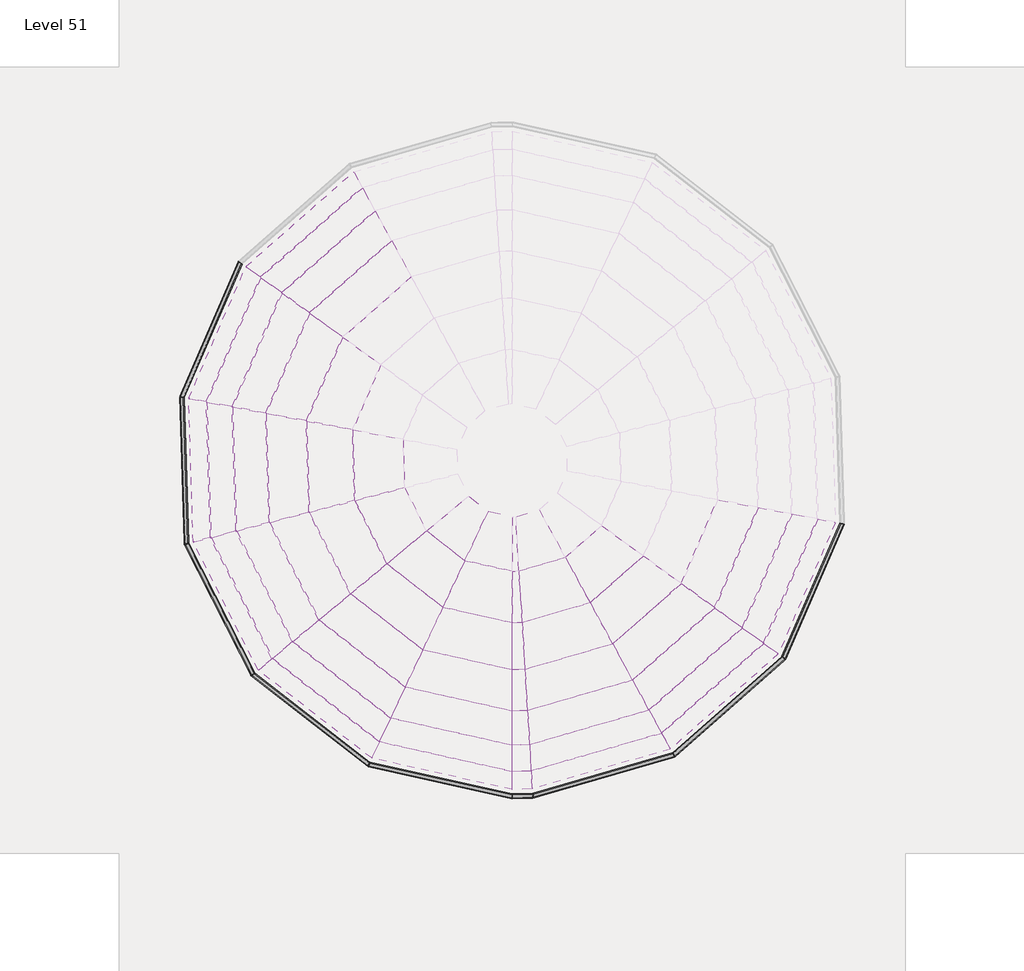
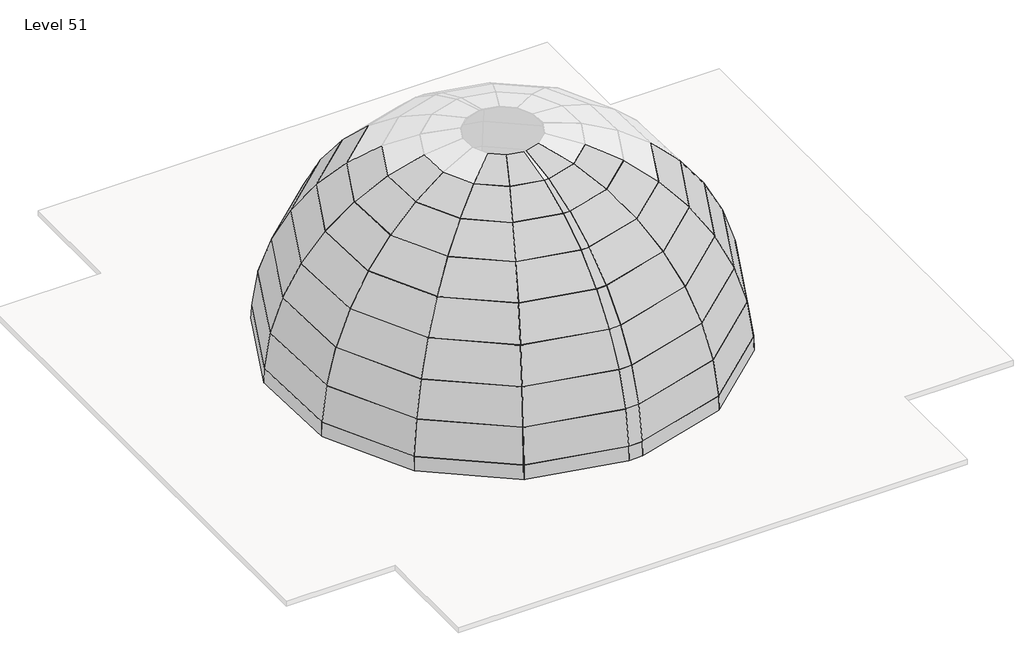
# One storey, part 1 of 2: 76 plates.
"""IFC4 building model written with IfcOpenShell, lengths in millimetres."""

from ifc_helpers import new_model, si_unit, origin, place, context, project, spatial, transform, mapped, element, save
from components import system_panel_glazed_7f2603d2, system_panel_glazed_10bcf4cf, system_panel_glazed_07e92868, system_panel_glazed_673ffbb1, system_panel_glazed_c6f68c0f, system_panel_glazed_d746c46d, system_panel_glazed_5827fd40, system_panel_glazed_fe6de704, system_panel_glazed_5ba3e6ec, system_panel_glazed_9fd5a8b6, system_panel_glazed_03378611, system_panel_glazed_ead59c80, system_panel_glazed_69a4d19d, system_panel_glazed_c8d27067, system_panel_glazed_4af60eb3, system_panel_glazed_c29e8d54, system_panel_glazed_620c5912

model = new_model("IFC4")

# Units and contexts
model_context = context("Model", 3, world=origin())
ifc_project = project(units=[si_unit("LENGTHUNIT", "METRE", prefix="MILLI")], contexts=[model_context])

# Site, building, storey
site = spatial("IfcSite", under=ifc_project)
building = spatial("IfcBuilding", under=site)
storey = spatial("IfcBuildingStorey", under=building, Name="Level 51", Elevation=152400.0)

# Plates
placement = place(None, origin())
system_panel_glazed_shape = system_panel_glazed_7f2603d2(model_context)
element("IfcPlate", 1, ObjectType="System Panel : Glazed", at=placement, inside=storey, context=model_context, shape_type="MappedRepresentation", body=[
    mapped(system_panel_glazed_shape, transform((3193.0877593, -7639.7651167, 161416.1055894), x_axis=(-0.9759000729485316, 0.2182178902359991, 0.0), y_axis=(0.05542611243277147, 0.2478731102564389, -0.9672057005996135), z_axis=(-0.2110615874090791, -0.9438961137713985, -0.2539943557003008))),
])
element("IfcPlate", 2, ObjectType="System Panel : Glazed", at=placement, inside=storey, context=model_context, shape_type="MappedRepresentation", body=[
    mapped(system_panel_glazed_shape, transform((2605.8080826, -7363.3025317, 161416.1055894), x_axis=(-0.790014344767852, 0.6130883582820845, 0.0), y_axis=(0.15572098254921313, 0.20065918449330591, -0.9672057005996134), z_axis=(-0.5929825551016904, -0.7641063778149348, -0.2539943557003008))),
])
element("IfcPlate", 3, ObjectType="System Panel : Glazed", at=placement, inside=storey, context=model_context, shape_type="MappedRepresentation", body=[
    mapped(system_panel_glazed_shape, transform((3931.1522218, -7616.9660806, 161416.1055894), x_axis=(-0.960570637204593, -0.2780360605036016, 0.0), y_axis=(-0.07061959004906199, 0.24397952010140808, -0.9672057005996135), z_axis=(0.2689180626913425, -0.9290693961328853, -0.2539943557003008))),
])
system_panel_glazed_2_shape = system_panel_glazed_10bcf4cf(model_context)
element("IfcPlate", 4, ObjectType="System Panel : Glazed", at=placement, inside=storey, context=model_context, shape_type="MappedRepresentation", body=[
    mapped(system_panel_glazed_2_shape, transform((2878.6985493, -9045.7564067, 161037.7653816), x_axis=(-0.9759000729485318, 0.21821789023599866, 0.0), y_axis=(0.09034502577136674, 0.40403523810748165, -0.910271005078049), z_axis=(-0.19863741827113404, -0.8883335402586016, -0.41401291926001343))),
])
element("IfcPlate", 5, ObjectType="System Panel : Glazed", at=placement, inside=storey, context=model_context, shape_type="MappedRepresentation", body=[
    mapped(system_panel_glazed_2_shape, transform((1722.5241116, -8501.4859569, 161037.7653816), x_axis=(-0.7900143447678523, 0.6130883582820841, 0.0), y_axis=(0.25382650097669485, 0.32707614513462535, -0.910271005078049), z_axis=(-0.5580765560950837, -0.7191271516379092, -0.4140129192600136))),
])
element("IfcPlate", 6, ObjectType="System Panel : Glazed", at=placement, inside=storey, context=model_context, shape_type="MappedRepresentation", body=[
    mapped(system_panel_glazed_2_shape, transform((908.2759487, -7516.6156192, 161037.7653816), x_axis=(-0.45364969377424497, 0.8911800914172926, 0.0), y_axis=(0.368960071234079, 0.18781683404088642, -0.9102710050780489), z_axis=(-0.8112153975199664, -0.41294416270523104, -0.4140129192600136))),
])
element("IfcPlate", 7, ObjectType="System Panel : Glazed", at=placement, inside=storey, context=model_context, shape_type="MappedRepresentation", body=[
    mapped(system_panel_glazed_2_shape, transform((591.0489488, -6278.7397436, 161037.7653816), x_axis=(-0.030875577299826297, 0.9995232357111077, 0.0), y_axis=(0.41381553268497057, 0.01278288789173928, -0.910271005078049), z_axis=(-0.9098370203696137, -0.028105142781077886, -0.4140129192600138))),
])
element("IfcPlate", 8, ObjectType="System Panel : Glazed", at=placement, inside=storey, context=model_context, shape_type="MappedRepresentation", body=[
    mapped(system_panel_glazed_2_shape, transform((5452.0989763, -8386.278253, 161037.7653816), x_axis=(-0.7506672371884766, -0.6606804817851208, 0.0), y_axis=(-0.27353025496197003, 0.31078593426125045, -0.9102710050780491), z_axis=(0.6013982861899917, -0.6833106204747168, -0.4140129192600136))),
])
element("IfcPlate", 9, ObjectType="System Panel : Glazed", at=placement, inside=storey, context=model_context, shape_type="MappedRepresentation", body=[
    mapped(system_panel_glazed_2_shape, transform((4331.7222087, -9000.8720632, 161037.7653816), x_axis=(-0.9605706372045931, -0.27803606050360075, 0.0), y_axis=(-0.1151105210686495, 0.39768865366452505, -0.910271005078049), z_axis=(0.2530881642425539, -0.874379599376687, -0.4140129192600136))),
])
system_panel_glazed_3_shape = system_panel_glazed_07e92868(model_context)
element("IfcPlate", 10, ObjectType="System Panel : Glazed", at=placement, inside=storey, context=model_context, shape_type="MappedRepresentation", body=[
    mapped(system_panel_glazed_3_shape, transform((3610.2286012, -9185.7672187, 161037.7653816), x_axis=(-0.9995232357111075, -0.030875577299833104, 0.0), y_axis=(-0.012531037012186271, 0.4056624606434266, -0.9139370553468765), z_axis=(0.02821833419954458, -0.9135013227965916, -0.40585595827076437))),
])
system_panel_glazed_4_shape = system_panel_glazed_673ffbb1(model_context)
element("IfcPlate", 11, ObjectType="System Panel : Glazed", at=placement, inside=storey, context=model_context, shape_type="MappedRepresentation", body=[
    mapped(system_panel_glazed_4_shape, transform((2582.0576311, -10372.3749228, 160419.4872466), x_axis=(-0.975900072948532, 0.21821789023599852, 0.0), y_axis=(0.1224717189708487, 0.5477101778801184, -0.8276558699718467), z_axis=(-0.180609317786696, -0.807709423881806, -0.5612359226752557))),
])
element("IfcPlate", 12, ObjectType="System Panel : Glazed", at=placement, inside=storey, context=model_context, shape_type="MappedRepresentation", body=[
    mapped(system_panel_glazed_4_shape, transform((889.104389, -9575.4152319, 160419.4872466), x_axis=(-0.7900143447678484, 0.6130883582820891, 0.0), y_axis=(0.34408721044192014, 0.44338442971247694, -0.8276558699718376), z_axis=(-0.5074261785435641, -0.6538600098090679, -0.5612359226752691))),
])
element("IfcPlate", 13, ObjectType="System Panel : Glazed", at=placement, inside=storey, context=model_context, shape_type="MappedRepresentation", body=[
    mapped(system_panel_glazed_4_shape, transform((-303.1759645, -8133.2976958, 160419.4872466), x_axis=(-0.45364969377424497, 0.8911800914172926, 0.0), y_axis=(0.5001622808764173, 0.25460450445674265, -0.8276558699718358), z_axis=(-0.7375904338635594, -0.37546583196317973, -0.5612359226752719))),
])
element("IfcPlate", 14, ObjectType="System Panel : Glazed", at=placement, inside=storey, context=model_context, shape_type="MappedRepresentation", body=[
    mapped(system_panel_glazed_4_shape, transform((-767.6824096, -6320.7113692, 160419.4872466), x_axis=(-0.03087557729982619, 0.9995232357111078, 0.0), y_axis=(0.5609683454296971, 0.017328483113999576, -0.8276558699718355), z_axis=(-0.8272612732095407, -0.025554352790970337, -0.5612359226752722))),
])
element("IfcPlate", 15, ObjectType="System Panel : Glazed", at=placement, inside=storey, context=model_context, shape_type="MappedRepresentation", body=[
    mapped(system_panel_glazed_4_shape, transform((-415.9375282, -4482.9107904, 160419.4872466), x_axis=(0.3977796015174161, 0.9174810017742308, 0.0), y_axis=(0.5149232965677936, -0.2232482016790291, -0.8276558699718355), z_axis=(-0.7593585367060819, 0.32922462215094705, -0.5612359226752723))),
])
element("IfcPlate", 16, ObjectType="System Panel : Glazed", at=placement, inside=storey, context=model_context, shape_type="MappedRepresentation", body=[
    mapped(system_panel_glazed_4_shape, transform((6350.2144542, -9406.719878, 160419.4872466), x_axis=(-0.7506672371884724, -0.6606804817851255, 0.0), y_axis=(-0.37079761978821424, 0.4213014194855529, -0.8276558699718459), z_axis=(0.5468160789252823, -0.6212941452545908, -0.5612359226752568))),
])
element("IfcPlate", 17, ObjectType="System Panel : Glazed", at=placement, inside=storey, context=model_context, shape_type="MappedRepresentation", body=[
    mapped(system_panel_glazed_4_shape, transform((4709.678719, -10306.6520591, 160419.4872466), x_axis=(-0.9605706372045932, -0.27803606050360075, 0.0), y_axis=(-0.1560438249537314, 0.5391067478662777, -0.8276558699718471), z_axis=(0.23011817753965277, -0.7950219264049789, -0.5612359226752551))),
])
system_panel_glazed_5_shape = system_panel_glazed_c6f68c0f(model_context)
element("IfcPlate", 18, ObjectType="System Panel : Glazed", at=placement, inside=storey, context=model_context, shape_type="MappedRepresentation", body=[
    mapped(system_panel_glazed_5_shape, transform((3653.2162146, -10577.3887601, 160419.4872466), x_axis=(-0.9995232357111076, -0.030875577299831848, 0.0), y_axis=(-0.017044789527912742, 0.5517844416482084, -0.8338125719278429), z_axis=(0.025744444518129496, -0.8334150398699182, -0.5520476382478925))),
])
system_panel_glazed_6_shape = system_panel_glazed_d746c46d(model_context)
element("IfcPlate", 19, ObjectType="System Panel : Glazed", at=placement, inside=storey, context=model_context, shape_type="MappedRepresentation", body=[
    mapped(system_panel_glazed_6_shape, transform((2311.4050302, -11582.7701506, 159578.4455769), x_axis=(-0.9759000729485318, 0.2182178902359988, 0.0), y_axis=(0.1509092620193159, 0.6748867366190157, -0.7223256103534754), z_axis=(-0.15762437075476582, -0.7049176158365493, -0.6915531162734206))),
])
element("IfcPlate", 20, ObjectType="System Panel : Glazed", at=placement, inside=storey, context=model_context, shape_type="MappedRepresentation", body=[
    mapped(system_panel_glazed_6_shape, transform((128.6994626, -10555.2589877, 159578.4455769), x_axis=(-0.790014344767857, 0.6130883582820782, 0.0), y_axis=(0.42398316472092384, 0.5463368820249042, -0.7223256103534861), z_axis=(-0.4428494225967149, -0.5706475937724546, -0.6915531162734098))),
])
element("IfcPlate", 21, ObjectType="System Panel : Glazed", at=placement, inside=storey, context=model_context, shape_type="MappedRepresentation", body=[
    mapped(system_panel_glazed_6_shape, transform((-1408.4941827, -8695.9530738, 159578.4455769), x_axis=(-0.4536496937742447, 0.8911800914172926, 0.0), y_axis=(0.616298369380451, 0.31372285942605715, -0.7223256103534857), z_axis=(-0.6437222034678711, -0.3276827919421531, -0.6915531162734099))),
])
element("IfcPlate", 22, ObjectType="System Panel : Glazed", at=placement, inside=storey, context=model_context, shape_type="MappedRepresentation", body=[
    mapped(system_panel_glazed_6_shape, transform((-2007.3771162, -6359.0059164, 159578.4455769), x_axis=(-0.0308755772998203, 0.999523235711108, 0.0), y_axis=(0.6912234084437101, 0.021352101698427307, -0.7223256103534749), z_axis=(-0.721981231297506, -0.022302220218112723, -0.6915531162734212))),
])
element("IfcPlate", 23, ObjectType="System Panel : Glazed", at=placement, inside=storey, context=model_context, shape_type="MappedRepresentation", body=[
    mapped(system_panel_glazed_6_shape, transform((-1553.8763981, -3989.5503074, 159578.4455769), x_axis=(0.39777960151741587, 0.9174810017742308, 0.0), y_axis=(0.6344868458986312, -0.27508572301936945, -0.7223256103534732), z_axis=(-0.6627200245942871, 0.28732639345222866, -0.6915531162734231))),
])
element("IfcPlate", 24, ObjectType="System Panel : Glazed", at=placement, inside=storey, context=model_context, shape_type="MappedRepresentation", body=[
    mapped(system_panel_glazed_6_shape, transform((-134.3731177, -2038.9111246, 159578.4455769), x_axis=(0.7506672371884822, 0.6606804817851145, 0.0), y_axis=(0.4568956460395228, -0.5191262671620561, -0.7223256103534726), z_axis=(-0.4772264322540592, 0.5422261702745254, -0.6915531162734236))),
])
element("IfcPlate", 25, ObjectType="System Panel : Glazed", at=placement, inside=storey, context=model_context, shape_type="MappedRepresentation", body=[
    mapped(system_panel_glazed_6_shape, transform((8589.1505069, -8387.1227832, 159578.4455769), x_axis=(-0.3977796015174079, -0.9174810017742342, 0.0), y_axis=(-0.6344868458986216, 0.2750857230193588, -0.7223256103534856), z_axis=(0.6627200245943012, -0.28732639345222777, -0.6915531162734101))),
])
element("IfcPlate", 26, ObjectType="System Panel : Glazed", at=placement, inside=storey, context=model_context, shape_type="MappedRepresentation", body=[
    mapped(system_panel_glazed_6_shape, transform((7169.6472265, -10337.761966, 159578.4455769), x_axis=(-0.7506672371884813, -0.6606804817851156, 0.0), y_axis=(-0.45689564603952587, 0.5191262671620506, -0.7223256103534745), z_axis=(0.4772264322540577, -0.5422261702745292, -0.6915531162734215))),
])
element("IfcPlate", 27, ObjectType="System Panel : Glazed", at=placement, inside=storey, context=model_context, shape_type="MappedRepresentation", body=[
    mapped(system_panel_glazed_6_shape, transform((5054.5229609, -11498.034402, 159578.4455769), x_axis=(-0.9605706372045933, -0.2780360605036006, 0.0), y_axis=(-0.19227670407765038, 0.6642856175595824, -0.722325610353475), z_axis=(0.20083256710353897, -0.6938447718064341, -0.6915531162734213))),
])
system_panel_glazed_7_shape = system_panel_glazed_5827fd40(model_context)
element("IfcPlate", 28, ObjectType="System Panel : Glazed", at=placement, inside=storey, context=model_context, shape_type="MappedRepresentation", body=[
    mapped(system_panel_glazed_7_shape, transform((3692.4377403, -11847.0921845, 159578.4455769), x_axis=(-0.9995232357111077, -0.030875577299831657, 0.0), y_axis=(-0.021084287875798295, 0.6825535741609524, -0.7305313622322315), z_axis=(0.022555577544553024, -0.7301830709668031, -0.6828791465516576))),
])
system_panel_glazed_8_shape = system_panel_glazed_fe6de704(model_context)
element("IfcPlate", 29, ObjectType="System Panel : Glazed", at=placement, inside=storey, context=model_context, shape_type="MappedRepresentation", body=[
    mapped(system_panel_glazed_8_shape, transform((2074.2588744, -12643.3200006, 158538.0026411), x_axis=(-0.9759000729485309, 0.21821789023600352, 0.0), y_axis=(0.17493423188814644, 0.7823296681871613, -0.5977945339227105), z_axis=(-0.13044946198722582, -0.5833877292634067, -0.8016493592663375))),
])
element("IfcPlate", 30, ObjectType="System Panel : Glazed", at=placement, inside=storey, context=model_context, shape_type="MappedRepresentation", body=[
    mapped(system_panel_glazed_8_shape, transform((-537.5683084, -11413.7993424, 158538.0026411), x_axis=(-0.7900143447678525, 0.6130883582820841, 0.0), y_axis=(0.4914818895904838, 0.6333144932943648, -0.5977945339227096), z_axis=(-0.3665008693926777, -0.47226625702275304, -0.8016493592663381))),
])
element("IfcPlate", 31, ObjectType="System Panel : Glazed", at=placement, inside=storey, context=model_context, shape_type="MappedRepresentation", body=[
    mapped(system_panel_glazed_8_shape, transform((-2376.9754221, -9188.9524372, 158538.0026411), x_axis=(-0.4536496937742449, 0.8911800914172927, 0.0), y_axis=(0.7144139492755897, 0.363667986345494, -0.597794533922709), z_axis=(-0.5327425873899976, -0.2711893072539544, -0.8016493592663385))),
])
element("IfcPlate", 32, ObjectType="System Panel : Glazed", at=placement, inside=storey, context=model_context, shape_type="MappedRepresentation", body=[
    mapped(system_panel_glazed_8_shape, transform((-3093.5992069, -6392.5596478, 158538.0026411), x_axis=(-0.030875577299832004, 0.9995232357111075, 0.0), y_axis=(0.8012671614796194, 0.024751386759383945, -0.5977945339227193), z_axis=(-0.5975095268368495, -0.01845725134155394, -0.8016493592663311))),
])
element("IfcPlate", 33, ObjectType="System Panel : Glazed", at=placement, inside=storey, context=model_context, shape_type="MappedRepresentation", body=[
    mapped(system_panel_glazed_8_shape, transform((-2550.9398944, -3557.2672198, 158538.0026411), x_axis=(0.3977796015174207, 0.9174810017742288, 0.0), y_axis=(0.7354980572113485, -0.3188797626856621, -0.597794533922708), z_axis=(-0.5484651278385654, 0.23779047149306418, -0.8016493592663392))),
])
element("IfcPlate", 34, ObjectType="System Panel : Glazed", at=placement, inside=storey, context=model_context, shape_type="MappedRepresentation", body=[
    mapped(system_panel_glazed_8_shape, transform((-852.361163, -1223.1308538, 158538.0026411), x_axis=(0.7506672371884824, 0.6606804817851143, 0.0), y_axis=(0.5296340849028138, -0.6017719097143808, -0.5977945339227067), z_axis=(-0.39495118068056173, 0.44874477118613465, -0.8016493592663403))),
])
element("IfcPlate", 35, ObjectType="System Panel : Glazed", at=placement, inside=storey, context=model_context, shape_type="MappedRepresentation", body=[
    mapped(system_panel_glazed_8_shape, transform((9586.2140031, -8819.4058707, 158538.0026411), x_axis=(-0.3977796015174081, -0.9174810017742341, 0.0), y_axis=(-0.7354980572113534, 0.3188797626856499, -0.5977945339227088), z_axis=(0.5484651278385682, -0.23779047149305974, -0.8016493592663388))),
])
element("IfcPlate", 36, ObjectType="System Panel : Glazed", at=placement, inside=storey, context=model_context, shape_type="MappedRepresentation", body=[
    mapped(system_panel_glazed_8_shape, transform((7887.6352718, -11153.5422367, 158538.0026411), x_axis=(-0.7506672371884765, -0.6606804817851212, 0.0), y_axis=(-0.5296340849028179, 0.6017719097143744, -0.5977945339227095), z_axis=(0.39495118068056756, -0.4487447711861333, -0.8016493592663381))),
])
element("IfcPlate", 37, ObjectType="System Panel : Glazed", at=placement, inside=storey, context=model_context, shape_type="MappedRepresentation", body=[
    mapped(system_panel_glazed_8_shape, transform((5356.6759276, -12541.9251376, 158538.0026411), x_axis=(-0.9605706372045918, -0.2780360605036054, 0.0), y_axis=(-0.22288742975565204, 0.7700408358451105, -0.5977945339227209), z_axis=(0.16620843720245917, -0.5742238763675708, -0.8016493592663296))),
])
system_panel_glazed_9_shape = system_panel_glazed_5ba3e6ec(model_context)
element("IfcPlate", 38, ObjectType="System Panel : Glazed", at=placement, inside=storey, context=model_context, shape_type="MappedRepresentation", body=[
    mapped(system_panel_glazed_9_shape, transform((3726.8036913, -12959.6079522, 158538.0026411), x_axis=(-0.9995232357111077, -0.030875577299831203, 0.0), y_axis=(-0.024537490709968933, 0.794342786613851, -0.606974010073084), z_axis=(0.01874067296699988, -0.6066846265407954, -0.7947216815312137))),
])
system_panel_glazed_10_shape = system_panel_glazed_9fd5a8b6(model_context)
element("IfcPlate", 39, ObjectType="System Panel : Glazed", at=placement, inside=storey, context=model_context, shape_type="MappedRepresentation", body=[
    mapped(system_panel_glazed_10_shape, transform((1877.2065569, -13524.5647545, 157327.0596321), x_axis=(-0.9759000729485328, 0.2182178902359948, 0.0), y_axis=(0.1939979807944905, 0.8675853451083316, -0.4578869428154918), z_axis=(-0.09991912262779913, -0.4468519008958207, -0.8890104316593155))),
])
element("IfcPlate", 40, ObjectType="System Panel : Glazed", at=placement, inside=storey, context=model_context, shape_type="MappedRepresentation", body=[
    mapped(system_panel_glazed_10_shape, transform((-1091.191486, -12127.1879527, 157327.0596321), x_axis=(-0.7900143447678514, 0.6130883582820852, 0.0), y_axis=(0.5450419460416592, 0.7023309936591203, -0.45788694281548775), z_axis=(-0.2807251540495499, -0.3617372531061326, -0.8890104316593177))),
])
element("IfcPlate", 41, ObjectType="System Panel : Glazed", at=placement, inside=storey, context=model_context, shape_type="MappedRepresentation", body=[
    mapped(system_panel_glazed_10_shape, transform((-3181.717426, -9598.6013591, 157327.0596321), x_axis=(-0.4536496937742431, 0.8911800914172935, 0.0), y_axis=(0.7922683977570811, 0.4032993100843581, -0.4578869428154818), z_axis=(-0.40805972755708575, -0.20772027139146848, -0.8890104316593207))),
])
element("IfcPlate", 42, ObjectType="System Panel : Glazed", at=placement, inside=storey, context=model_context, shape_type="MappedRepresentation", body=[
    mapped(system_panel_glazed_10_shape, transform((-3996.175846, -6420.4405152, 157327.0596321), x_axis=(-0.0308755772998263, 0.9995232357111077, 0.0), y_axis=(0.8885865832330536, 0.02744871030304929, -0.45788694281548), z_axis=(-0.4576686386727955, -0.014137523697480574, -0.8890104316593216))),
])
element("IfcPlate", 43, ObjectType="System Panel : Glazed", at=placement, inside=storey, context=model_context, shape_type="MappedRepresentation", body=[
    mapped(system_panel_glazed_10_shape, transform((-3379.4318087, -3198.0693913, 157327.0596321), x_axis=(0.39777960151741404, 0.9174810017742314, 0.0), y_axis=(0.8156501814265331, -0.35363021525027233, -0.4578869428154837), z_axis=(-0.4201025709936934, 0.18213808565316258, -0.8890104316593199))),
])
element("IfcPlate", 44, ObjectType="System Panel : Glazed", at=placement, inside=storey, context=model_context, shape_type="MappedRepresentation", body=[
    mapped(system_panel_glazed_10_shape, transform((-1448.960369, -545.2729634, 157327.0596321), x_axis=(0.7506672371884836, 0.660680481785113, 0.0), y_axis=(0.5873518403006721, -0.6673510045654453, -0.45788694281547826), z_axis=(-0.3025169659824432, 0.3437207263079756, -0.8890104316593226))),
])
element("IfcPlate", 45, ObjectType="System Panel : Glazed", at=placement, inside=storey, context=model_context, shape_type="MappedRepresentation", body=[
    mapped(system_panel_glazed_10_shape, transform((10414.7059175, -9178.6036992, 157327.0596321), x_axis=(-0.39777960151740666, -0.9174810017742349, 0.0), y_axis=(-0.8156501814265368, 0.3536302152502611, -0.4578869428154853), z_axis=(0.4201025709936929, -0.18213808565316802, -0.8890104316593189))),
])
element("IfcPlate", 46, ObjectType="System Panel : Glazed", at=placement, inside=storey, context=model_context, shape_type="MappedRepresentation", body=[
    mapped(system_panel_glazed_10_shape, transform((8484.2344777, -11831.4001271, 157327.0596321), x_axis=(-0.7506672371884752, -0.6606804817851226, 0.0), y_axis=(-0.587351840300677, 0.6673510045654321, -0.4578869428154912), z_axis=(0.3025169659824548, -0.34372072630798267, -0.8890104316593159))),
])
element("IfcPlate", 47, ObjectType="System Panel : Glazed", at=placement, inside=storey, context=model_context, shape_type="MappedRepresentation", body=[
    mapped(system_panel_glazed_10_shape, transform((5607.7444811, -13409.3273013, 157327.0596321), x_axis=(-0.9605706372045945, -0.27803606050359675, 0.0), y_axis=(-0.24717695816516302, 0.8539573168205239, -0.4578869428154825), z_axis=(0.12730908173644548, -0.43983275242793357, -0.8890104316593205))),
])
system_panel_glazed_11_shape = system_panel_glazed_03378611(model_context)
element("IfcPlate", 48, ObjectType="System Panel : Glazed", at=placement, inside=storey, context=model_context, shape_type="MappedRepresentation", body=[
    mapped(system_panel_glazed_11_shape, transform((3755.359458, -13884.0328475, 157327.0596321), x_axis=(-0.9995232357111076, -0.030875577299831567, 0.0), y_axis=(-0.02730879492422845, 0.8840571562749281, -0.46658029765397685), z_axis=(0.014405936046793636, -0.46635784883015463, -0.8844788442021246))),
])
system_panel_glazed_12_shape = system_panel_glazed_ead59c80(model_context)
element("IfcPlate", 49, ObjectType="System Panel : Glazed", at=placement, inside=storey, context=model_context, shape_type="MappedRepresentation", body=[
    mapped(system_panel_glazed_12_shape, transform((1725.7217533, -14202.0253915, 155979.2538554), x_axis=(-0.9759000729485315, 0.21821789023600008, 0.0), y_axis=(0.20771158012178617, 0.928914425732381, -0.30655160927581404), z_axis=(-0.06689504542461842, -0.29916373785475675, -0.9518540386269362))),
])
element("IfcPlate", 50, ObjectType="System Panel : Glazed", at=placement, inside=storey, context=model_context, shape_type="MappedRepresentation", body=[
    mapped(system_panel_glazed_12_shape, transform((-1516.7916486, -12675.6084684, 155979.2538554), x_axis=(-0.7900143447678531, 0.6130883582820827, 0.0), y_axis=(0.5835706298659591, 0.7519783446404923, -0.3065516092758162), z_axis=(-0.18794322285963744, -0.24218016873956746, -0.9518540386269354))),
])
element("IfcPlate", 51, ObjectType="System Panel : Glazed", at=placement, inside=storey, context=model_context, shape_type="MappedRepresentation", body=[
    mapped(system_panel_glazed_12_shape, transform((-3800.36625, -9913.5207028, 155979.2538554), x_axis=(-0.45364969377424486, 0.8911800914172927, 0.0), y_axis=(0.8482733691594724, 0.43180829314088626, -0.3065516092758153), z_axis=(-0.2731926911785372, -0.13906704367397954, -0.9518540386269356))),
])
element("IfcPlate", 52, ObjectType="System Panel : Glazed", at=placement, inside=storey, context=model_context, shape_type="MappedRepresentation", body=[
    mapped(system_panel_glazed_12_shape, transform((-4690.03546, -6441.8740501, 155979.2538554), x_axis=(-0.030875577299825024, 0.9995232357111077, 0.0), y_axis=(0.9514002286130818, 0.029389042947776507, -0.30655160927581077), z_axis=(-0.3064054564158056, -0.009464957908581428, -0.9518540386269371))),
])
element("IfcPlate", 53, ObjectType="System Panel : Glazed", at=placement, inside=storey, context=model_context, shape_type="MappedRepresentation", body=[
    mapped(system_panel_glazed_12_shape, transform((-4016.3384769, -2921.9345393, 155979.2538554), x_axis=(0.39777960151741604, 0.9174810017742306, 0.0), y_axis=(0.8733079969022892, -0.37862812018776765, -0.3065516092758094), z_axis=(-0.281255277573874, 0.12193997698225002, -0.9518540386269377))),
])
element("IfcPlate", 54, ObjectType="System Panel : Glazed", at=placement, inside=storey, context=model_context, shape_type="MappedRepresentation", body=[
    mapped(system_panel_glazed_12_shape, transform((-1907.5985354, -24.1668391, 155979.2538554), x_axis=(0.7506672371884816, 0.6606804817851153, 0.0), y_axis=(0.6288713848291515, -0.714525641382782, -0.306551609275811), z_axis=(-0.2025326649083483, 0.23011824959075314, -0.951854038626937))),
])
element("IfcPlate", 55, ObjectType="System Panel : Glazed", at=placement, inside=storey, context=model_context, shape_type="MappedRepresentation", body=[
    mapped(system_panel_glazed_12_shape, transform((11051.6125856, -9454.7385513, 155979.2538554), x_axis=(-0.397779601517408, -0.9174810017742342, 0.0), y_axis=(-0.873307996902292, 0.3786281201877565, -0.3065516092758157), z_axis=(0.28125527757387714, -0.12193997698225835, -0.9518540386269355))),
])
element("IfcPlate", 56, ObjectType="System Panel : Glazed", at=placement, inside=storey, context=model_context, shape_type="MappedRepresentation", body=[
    mapped(system_panel_glazed_12_shape, transform((8942.8726441, -12352.5062514, 155979.2538554), x_axis=(-0.7506672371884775, -0.6606804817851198, 0.0), y_axis=(-0.6288713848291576, 0.7145256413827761, -0.30655160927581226), z_axis=(0.20253266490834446, -0.23011824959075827, -0.9518540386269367))),
])
element("IfcPlate", 57, ObjectType="System Panel : Glazed", at=placement, inside=storey, context=model_context, shape_type="MappedRepresentation", body=[
    mapped(system_panel_glazed_12_shape, transform((5800.754495, -14076.1463884, 155979.2538554), x_axis=(-0.9605706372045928, -0.2780360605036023, 0.0), y_axis=(-0.26464974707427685, 0.91432304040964, -0.3065516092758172), z_axis=(0.08523240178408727, -0.2944644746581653, -0.9518540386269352))),
])
system_panel_glazed_13_shape = system_panel_glazed_69a4d19d(model_context)
element("IfcPlate", 58, ObjectType="System Panel : Glazed", at=placement, inside=storey, context=model_context, shape_type="MappedRepresentation", body=[
    mapped(system_panel_glazed_13_shape, transform((3777.3118246, -14594.688401, 155979.2538554), x_axis=(-0.9995232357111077, -0.030875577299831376, 0.0), y_axis=(-0.029321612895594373, 0.9492173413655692, -0.3132517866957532), z_axis=(0.00967182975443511, -0.31310243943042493, -0.9496701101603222))),
])
system_panel_glazed_14_shape = system_panel_glazed_c8d27067(model_context)
element("IfcPlate", 59, ObjectType="System Panel : Glazed", at=placement, inside=storey, context=model_context, shape_type="MappedRepresentation", body=[
    mapped(system_panel_glazed_14_shape, transform((1624.0123747, -14656.8835605, 154532.0243606), x_axis=(-0.9759000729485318, 0.21821789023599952, 0.0), y_axis=(0.2158229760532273, 0.9651896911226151, -0.14774743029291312), z_axis=(-0.03224113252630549, -0.144186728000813, -0.9890251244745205))),
])
element("IfcPlate", 60, ObjectType="System Panel : Glazed", at=placement, inside=storey, context=model_context, shape_type="MappedRepresentation", body=[
    mapped(system_panel_glazed_14_shape, transform((-1802.5465695, -13043.8269862, 154532.0243606), x_axis=(-0.7900143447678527, 0.6130883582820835, 0.0), y_axis=(0.606359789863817, 0.7813440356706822, -0.14774743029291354), z_axis=(-0.09058222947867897, -0.11672258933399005, -0.9890251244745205))),
])
element("IfcPlate", 61, ObjectType="System Panel : Glazed", at=placement, inside=storey, context=model_context, shape_type="MappedRepresentation", body=[
    mapped(system_panel_glazed_14_shape, transform((-4215.7372044, -10124.9627088, 154532.0243606), x_axis=(-0.4536496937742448, 0.8911800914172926, 0.0), y_axis=(0.8813995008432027, 0.4486709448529, -0.1477474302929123), z_axis=(-0.13166956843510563, -0.06702557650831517, -0.9890251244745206))),
])
element("IfcPlate", 62, ObjectType="System Panel : Glazed", at=placement, inside=storey, context=model_context, shape_type="MappedRepresentation", body=[
    mapped(system_panel_glazed_14_shape, transform((-5155.9041709, -6456.2648765, 154532.0243606), x_axis=(-0.030875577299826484, 0.9995232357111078, 0.0), y_axis=(0.988553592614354, 0.030536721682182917, -0.147747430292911), z_axis=(-0.1476769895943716, -0.004561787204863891, -0.989025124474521))),
])
element("IfcPlate", 63, ObjectType="System Panel : Glazed", at=placement, inside=storey, context=model_context, shape_type="MappedRepresentation", body=[
    mapped(system_panel_glazed_14_shape, transform((-4443.9680469, -2736.5330763, 154532.0243606), x_axis=(0.3977796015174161, 0.9174810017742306, 0.0), y_axis=(0.9074117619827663, -0.39341401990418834, -0.14774743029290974), z_axis=(-0.13555546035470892, 0.05877091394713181, -0.9890251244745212))),
])
element("IfcPlate", 64, ObjectType="System Panel : Glazed", at=placement, inside=storey, context=model_context, shape_type="MappedRepresentation", body=[
    mapped(system_panel_glazed_14_shape, transform((11479.2421557, -9640.1400142, 154532.0243606), x_axis=(-0.39777960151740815, -0.9174810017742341, 0.0), y_axis=(-0.9074117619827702, 0.3934140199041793, -0.14774743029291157), z_axis=(0.13555546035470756, -0.05877091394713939, -0.9890251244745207))),
])
element("IfcPlate", 65, ObjectType="System Panel : Glazed", at=placement, inside=storey, context=model_context, shape_type="MappedRepresentation", body=[
    mapped(system_panel_glazed_14_shape, transform((9250.8098219, -12702.3854394, 154532.0243606), x_axis=(-0.7506672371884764, -0.6606804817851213, 0.0), y_axis=(-0.6534295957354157, 0.7424287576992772, -0.14774743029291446), z_axis=(0.09761384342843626, -0.11090915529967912, -0.9890251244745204))),
])
element("IfcPlate", 66, ObjectType="System Panel : Glazed", at=placement, inside=storey, context=model_context, shape_type="MappedRepresentation", body=[
    mapped(system_panel_glazed_14_shape, transform((5930.34458, -14523.8596466, 154532.0243606), x_axis=(-0.9605706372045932, -0.27803606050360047, 0.0), y_axis=(-0.2749846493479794, 0.9500284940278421, -0.14774743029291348), z_axis=(0.041079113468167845, -0.14192184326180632, -0.9890251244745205))),
])
system_panel_glazed_15_shape = system_panel_glazed_4af60eb3(model_context)
element("IfcPlate", 67, ObjectType="System Panel : Glazed", at=placement, inside=storey, context=model_context, shape_type="MappedRepresentation", body=[
    mapped(system_panel_glazed_15_shape, transform((3792.0510031, -15071.8341808, 154532.0243606), x_axis=(-0.9995232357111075, -0.0308755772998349, 0.0), y_axis=(-0.0305204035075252, 0.988025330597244, -0.15124301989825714), z_axis=(0.004669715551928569, -0.1511709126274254, -0.9884966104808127))),
])
system_panel_glazed_16_shape = system_panel_glazed_c29e8d54(model_context)
element("IfcPlate", 68, ObjectType="System Panel : Glazed", at=placement, inside=storey, context=model_context, shape_type="MappedRepresentation", body=[
    mapped(system_panel_glazed_16_shape, transform((1574.9036816, -14876.5043125, 153025.5719668), x_axis=(-0.9759000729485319, 0.2182178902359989, 0.0), y_axis=(0.2180961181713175, 0.975355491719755, -0.033402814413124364), z_axis=(-0.007289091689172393, -0.03259780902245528, -0.9994419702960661))),
])
element("IfcPlate", 69, ObjectType="System Panel : Glazed", at=placement, inside=storey, context=model_context, shape_type="MappedRepresentation", body=[
    mapped(system_panel_glazed_16_shape, transform((-1940.5186119, -13221.615214, 153025.5719668), x_axis=(-0.7900143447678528, 0.6130883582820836, 0.0), y_axis=(0.6127462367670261, 0.7895734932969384, -0.033402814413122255), z_axis=(-0.02047887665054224, -0.02638870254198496, -0.9994419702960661))),
])
element("IfcPlate", 70, ObjectType="System Panel : Glazed", at=placement, inside=storey, context=model_context, shape_type="MappedRepresentation", body=[
    mapped(system_panel_glazed_16_shape, transform((-4416.2922071, -10227.0539881, 153025.5719668), x_axis=(-0.4536496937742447, 0.8911800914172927, 0.0), y_axis=(0.8906827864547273, 0.45339654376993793, -0.03340281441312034), z_axis=(-0.02976792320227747, -0.015153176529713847, -0.9994419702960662))),
])
element("IfcPlate", 71, ObjectType="System Panel : Glazed", at=placement, inside=storey, context=model_context, shape_type="MappedRepresentation", body=[
    mapped(system_panel_glazed_16_shape, transform((-5380.8411811, -6463.2132493, 153025.5719668), x_axis=(-0.03087557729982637, 0.9995232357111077, 0.0), y_axis=(0.9989654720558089, 0.03085834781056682, -0.03340281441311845), z_axis=(-0.033386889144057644, -0.0010313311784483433, -0.9994419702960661))),
])
element("IfcPlate", 72, ObjectType="System Panel : Glazed", at=placement, inside=storey, context=model_context, shape_type="MappedRepresentation", body=[
    mapped(system_panel_glazed_16_shape, transform((-4650.4419197, -2647.015043, 153025.5719668), x_axis=(0.39777960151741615, 0.9174810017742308, 0.0), y_axis=(0.9169690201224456, -0.39755762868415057, -0.033402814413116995), z_axis=(-0.030646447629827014, 0.013286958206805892, -0.9994419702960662))),
])
element("IfcPlate", 73, ObjectType="System Panel : Glazed", at=placement, inside=storey, context=model_context, shape_type="MappedRepresentation", body=[
    mapped(system_panel_glazed_16_shape, transform((11685.7160284, -9729.6580475, 153025.5719668), x_axis=(-0.397779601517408, -0.9174810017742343, 0.0), y_axis=(-0.9169690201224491, 0.397557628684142, -0.033402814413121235), z_axis=(0.03064644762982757, -0.013286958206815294, -0.9994419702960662))),
])
element("IfcPlate", 74, ObjectType="System Panel : Glazed", at=placement, inside=storey, context=model_context, shape_type="MappedRepresentation", body=[
    mapped(system_panel_glazed_16_shape, transform((9399.4922006, -12871.3188247, 153025.5719668), x_axis=(-0.7506672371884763, -0.6606804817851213, 0.0), y_axis=(-0.6603118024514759, 0.7502483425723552, -0.033402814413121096), z_axis=(0.022068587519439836, -0.025074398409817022, -0.9994419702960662))),
])
element("IfcPlate", 75, ObjectType="System Panel : Glazed", at=placement, inside=storey, context=model_context, shape_type="MappedRepresentation", body=[
    mapped(system_panel_glazed_16_shape, transform((5992.9150116, -14740.0305964, 153025.5719668), x_axis=(-0.9605706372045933, -0.2780360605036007, 0.0), y_axis=(-0.27788090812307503, 0.9600346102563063, -0.033402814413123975), z_axis=(0.009287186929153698, -0.03208576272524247, -0.999441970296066))),
])
system_panel_glazed_17_shape = system_panel_glazed_620c5912(model_context)
element("IfcPlate", 76, ObjectType="System Panel : Glazed", at=placement, inside=storey, context=model_context, shape_type="MappedRepresentation", body=[
    mapped(system_panel_glazed_17_shape, transform((3799.1675719, -15302.2161374, 153025.5719668), x_axis=(-0.9995232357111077, -0.030875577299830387, 0.0), y_axis=(-0.03085750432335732, 0.9989381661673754, -0.03421044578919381), z_axis=(0.001056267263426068, -0.03419413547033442, -0.9994146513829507))),
])

save(model, "model.ifc")
